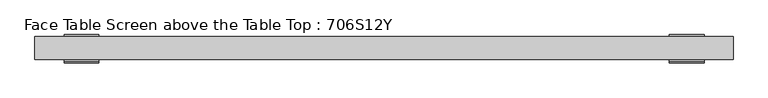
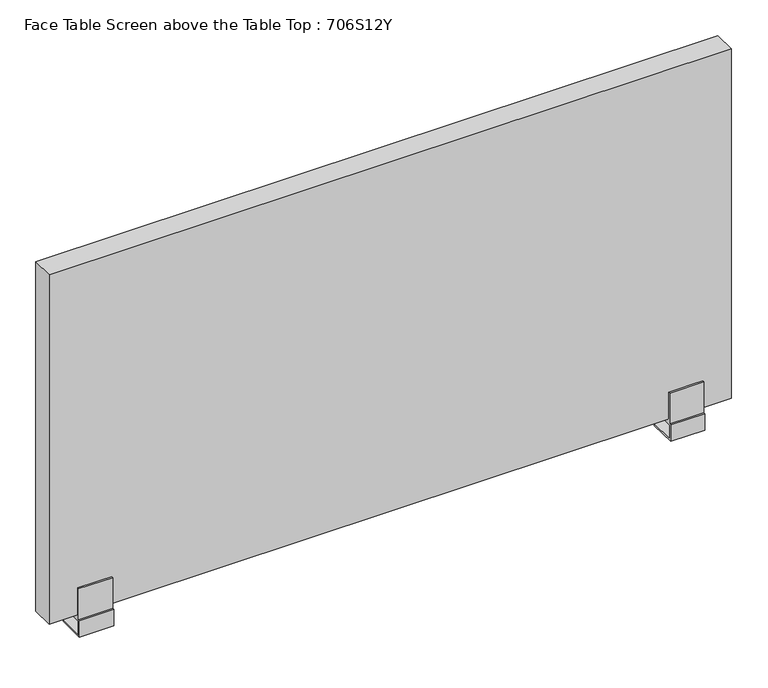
"""IFC4 building model written with IfcOpenShell, lengths in millimetres: furniture geometry, Face Table Screen above the Table Top : 706S12Y."""

from ifc_helpers import new_model, si_unit, frame, origin, place, context, project, spatial, polyline, circle_curve, outline, extrude, source, transform, mapped, element, save
from ifc_brep_helpers import plane_surface, cylinder_surface, advanced_brep


def face_table_screen_above_the_table_top_706s12y_19ade67d(model_context):
    return source(origin(), model_context, "Body", "SolidModel", [
        advanced_brep(
        [(-525.0, 0.0, -39.4406633), (-515.0, 0.0, -39.4406633), (-515.0, 0.0, -28.0), (-525.0, 0.0, -28.0), (-550.0, 23.0, -25.0), (-550.0, -23.0, -25.0), (-490.0, -23.0, -25.0), (-490.0, 23.0, -25.0), (-550.0, -23.0, 0.0), (-550.0, 23.0, -28.0), (-550.0, -26.0, -28.0), (-550.0, -26.0, 3.0), (-550.0, -23.0, 3.0), (-550.0, -23.0, 60.0), (-550.0, -20.0, 60.0), (-550.0, -20.0, 10.0), (-550.0, 20.0, 10.0), (-550.0, 20.0, 60.0), (-550.0, 23.0, 60.0), (-550.0, 23.0, 0.0), (-490.0, -23.0, 0.0), (-490.0, 23.0, 0.0), (-490.0, 23.0, 60.0), (-490.0, 20.0, 60.0), (-490.0, 20.0, 10.0), (-490.0, -20.0, 10.0), (-490.0, -20.0, 60.0), (-490.0, -23.0, 60.0), (-490.0, -23.0, 3.0), (-490.0, -26.0, 3.0), (-490.0, -26.0, -28.0), (-490.0, 23.0, -28.0)],
        [
            (0, 1, circle_curve(frame((-520.0, 0.0, -39.4406633), z_axis=(0.0, 0.0, -1.0), x_axis=(1.0, 0.0, 0.0)), 5.0)),
            (1, 0, circle_curve(frame((-520.0, 0.0, -39.4406633), z_axis=(0.0, 0.0, -1.0), x_axis=(1.0, 0.0, 0.0)), 5.0)),
            (1, 2),
            (2, 3, circle_curve(frame((-520.0, 0.0, -28.0), z_axis=(0.0, 0.0, -1.0), x_axis=(1.0, 0.0, 0.0)), 5.0)),
            (3, 0),
            (3, 2, circle_curve(frame((-520.0, 0.0, -28.0), z_axis=(0.0, 0.0, -1.0), x_axis=(1.0, 0.0, 0.0)), 5.0)),
            (4, 5),
            (5, 6),
            (6, 7),
            (7, 4),
            (8, 5),
            (4, 9),
            (9, 10),
            (10, 11),
            (11, 12),
            (12, 13),
            (13, 14),
            (14, 15),
            (15, 16),
            (16, 17),
            (17, 18),
            (18, 19),
            (19, 8),
            (20, 21),
            (21, 22),
            (22, 23),
            (23, 24),
            (24, 25),
            (25, 26),
            (26, 27),
            (27, 28),
            (28, 29),
            (29, 30),
            (30, 31),
            (31, 7),
            (6, 20),
            (19, 21),
            (20, 8),
            (18, 22),
            (17, 23),
            (16, 24),
            (15, 25),
            (14, 26),
            (13, 27),
            (12, 28),
            (11, 29),
            (10, 30),
            (9, 31),
        ],
        [
            plane_surface(frame((-515.0, 0.0, -39.4406633), z_axis=(0.0, 0.0, -1.0), x_axis=(0.0, -1.0, 0.0))),
            cylinder_surface(frame((-520.0, 0.0, -39.4406633), z_axis=(0.0, 0.0, 1.0), x_axis=(1.0, 0.0, 0.0)), 5.0),
            plane_surface(frame((-515.0, 0.0, -25.0), z_axis=(0.0, 0.0, 1.0), x_axis=(0.0, 1.0, 0.0))),
            plane_surface(frame((-550.0, 23.0, 0.0), z_axis=(-1.0, 0.0, 0.0), x_axis=(0.0, -1.0, 0.0))),
            plane_surface(frame((-490.0, 23.0, 0.0), z_axis=(1.0, 0.0, 0.0), x_axis=(0.0, 1.0, 0.0))),
            plane_surface(frame((-490.0, -23.0, 0.0), z_axis=(0.0, 0.0, -1.0), x_axis=(-1.0, 0.0, 0.0))),
            plane_surface(frame((-490.0, 23.0, 0.0), z_axis=(0.0, 1.0, 0.0), x_axis=(-1.0, 0.0, 0.0))),
            plane_surface(frame((-490.0, 23.0, 60.0), z_axis=(0.0, 0.0, 1.0), x_axis=(-1.0, 0.0, 0.0))),
            plane_surface(frame((-490.0, 20.0, 60.0), z_axis=(0.0, -1.0, 0.0), x_axis=(-1.0, 0.0, 0.0))),
            plane_surface(frame((-490.0, 20.0, 10.0), z_axis=(0.0, 0.0, 1.0), x_axis=(-1.0, 0.0, 0.0))),
            plane_surface(frame((-490.0, -20.0, 10.0), z_axis=(0.0, 1.0, 0.0), x_axis=(-1.0, 0.0, 0.0))),
            plane_surface(frame((-490.0, -20.0, 60.0), z_axis=(0.0, 0.0, 1.0), x_axis=(-1.0, 0.0, 0.0))),
            plane_surface(frame((-490.0, -23.0, 60.0), z_axis=(0.0, -1.0, 0.0), x_axis=(-1.0, 0.0, 0.0))),
            plane_surface(frame((-490.0, -23.0, 3.0), z_axis=(0.0, 0.0, 1.0), x_axis=(-1.0, 0.0, 0.0))),
            plane_surface(frame((-490.0, -26.0, 3.0), z_axis=(0.0, -1.0, 0.0), x_axis=(-1.0, 0.0, 0.0))),
            plane_surface(frame((-490.0, -26.0, -28.0), z_axis=(0.0, 0.0, -1.0), x_axis=(-1.0, 0.0, 0.0))),
            plane_surface(frame((-490.0, 23.0, -28.0), z_axis=(0.0, 1.0, 0.0), x_axis=(-1.0, 0.0, 0.0))),
            plane_surface(frame((-490.0, -23.0, -25.0), z_axis=(0.0, 1.0, 0.0), x_axis=(-1.0, 0.0, 0.0))),
        ],
        [
            (0, [[1, 2]]),
            (1, [[-2, 3, 4, 5]]),
            (1, [[-1, -5, 6, -3]]),
            (2, [[7, 8, 9, 10]]),
            (3, [[11, -7, 12, 13, 14, 15, 16, 17, 18, 19, 20, 21, 22, 23]]),
            (4, [[24, 25, 26, 27, 28, 29, 30, 31, 32, 33, 34, 35, -9, 36]]),
            (5, [[-23, 37, -24, 38]]),
            (6, [[-22, 39, -25, -37]]),
            (7, [[-21, 40, -26, -39]]),
            (8, [[-20, 41, -27, -40]]),
            (9, [[-19, 42, -28, -41]]),
            (10, [[-18, 43, -29, -42]]),
            (11, [[-17, 44, -30, -43]]),
            (12, [[-16, 45, -31, -44]]),
            (13, [[-15, 46, -32, -45]]),
            (14, [[-14, 47, -33, -46]]),
            (15, [[-13, 48, -34, -47], [-4, -6]]),
            (16, [[-12, -10, -35, -48]]),
            (17, [[-11, -38, -36, -8]]),
        ],
    ),
        advanced_brep(
        [(515.0, 0.0, -39.4406633), (525.0, 0.0, -39.4406633), (525.0, 0.0, -28.0), (515.0, 0.0, -28.0), (490.0, 23.0, -25.0), (490.0, -23.0, -25.0), (550.0, -23.0, -25.0), (550.0, 23.0, -25.0), (490.0, -23.0, 0.0), (490.0, 23.0, -28.0), (490.0, -26.0, -28.0), (490.0, -26.0, 3.0), (490.0, -23.0, 3.0), (490.0, -23.0, 60.0), (490.0, -20.0, 60.0), (490.0, -20.0, 10.0), (490.0, 20.0, 10.0), (490.0, 20.0, 60.0), (490.0, 23.0, 60.0), (490.0, 23.0, 0.0), (550.0, -23.0, 0.0), (550.0, 23.0, 0.0), (550.0, 23.0, 60.0), (550.0, 20.0, 60.0), (550.0, 20.0, 10.0), (550.0, -20.0, 10.0), (550.0, -20.0, 60.0), (550.0, -23.0, 60.0), (550.0, -23.0, 3.0), (550.0, -26.0, 3.0), (550.0, -26.0, -28.0), (550.0, 23.0, -28.0)],
        [
            (0, 1, circle_curve(frame((520.0, 0.0, -39.4406633), z_axis=(0.0, 0.0, -1.0), x_axis=(1.0, 0.0, 0.0)), 5.0)),
            (1, 0, circle_curve(frame((520.0, 0.0, -39.4406633), z_axis=(0.0, 0.0, -1.0), x_axis=(1.0, 0.0, 0.0)), 5.0)),
            (1, 2),
            (2, 3, circle_curve(frame((520.0, 0.0, -28.0), z_axis=(0.0, 0.0, -1.0), x_axis=(1.0, 0.0, 0.0)), 5.0)),
            (3, 0),
            (3, 2, circle_curve(frame((520.0, 0.0, -28.0), z_axis=(0.0, 0.0, -1.0), x_axis=(1.0, 0.0, 0.0)), 5.0)),
            (4, 5),
            (5, 6),
            (6, 7),
            (7, 4),
            (8, 5),
            (4, 9),
            (9, 10),
            (10, 11),
            (11, 12),
            (12, 13),
            (13, 14),
            (14, 15),
            (15, 16),
            (16, 17),
            (17, 18),
            (18, 19),
            (19, 8),
            (20, 21),
            (21, 22),
            (22, 23),
            (23, 24),
            (24, 25),
            (25, 26),
            (26, 27),
            (27, 28),
            (28, 29),
            (29, 30),
            (30, 31),
            (31, 7),
            (6, 20),
            (19, 21),
            (20, 8),
            (18, 22),
            (17, 23),
            (16, 24),
            (15, 25),
            (14, 26),
            (13, 27),
            (12, 28),
            (11, 29),
            (10, 30),
            (9, 31),
        ],
        [
            plane_surface(frame((525.0, 0.0, -39.4406633), z_axis=(0.0, 0.0, -1.0), x_axis=(0.0, -1.0, 0.0))),
            cylinder_surface(frame((520.0, 0.0, -39.4406633), z_axis=(0.0, 0.0, 1.0), x_axis=(1.0, 0.0, 0.0)), 5.0),
            plane_surface(frame((525.0, 0.0, -25.0), z_axis=(0.0, 0.0, 1.0), x_axis=(0.0, 1.0, 0.0))),
            plane_surface(frame((490.0, 23.0, 0.0), z_axis=(-1.0, 0.0, 0.0), x_axis=(0.0, -1.0, 0.0))),
            plane_surface(frame((550.0, 23.0, 0.0), z_axis=(1.0, 0.0, 0.0), x_axis=(0.0, 1.0, 0.0))),
            plane_surface(frame((550.0, -23.0, 0.0), z_axis=(0.0, 0.0, -1.0), x_axis=(-1.0, 0.0, 0.0))),
            plane_surface(frame((550.0, 23.0, 0.0), z_axis=(0.0, 1.0, 0.0), x_axis=(-1.0, 0.0, 0.0))),
            plane_surface(frame((550.0, 23.0, 60.0), z_axis=(0.0, 0.0, 1.0), x_axis=(-1.0, 0.0, 0.0))),
            plane_surface(frame((550.0, 20.0, 60.0), z_axis=(0.0, -1.0, 0.0), x_axis=(-1.0, 0.0, 0.0))),
            plane_surface(frame((550.0, 20.0, 10.0), z_axis=(0.0, 0.0, 1.0), x_axis=(-1.0, 0.0, 0.0))),
            plane_surface(frame((550.0, -20.0, 10.0), z_axis=(0.0, 1.0, 0.0), x_axis=(-1.0, 0.0, 0.0))),
            plane_surface(frame((550.0, -20.0, 60.0), z_axis=(0.0, 0.0, 1.0), x_axis=(-1.0, 0.0, 0.0))),
            plane_surface(frame((550.0, -23.0, 60.0), z_axis=(0.0, -1.0, 0.0), x_axis=(-1.0, 0.0, 0.0))),
            plane_surface(frame((550.0, -23.0, 3.0), z_axis=(0.0, 0.0, 1.0), x_axis=(-1.0, 0.0, 0.0))),
            plane_surface(frame((550.0, -26.0, 3.0), z_axis=(0.0, -1.0, 0.0), x_axis=(-1.0, 0.0, 0.0))),
            plane_surface(frame((550.0, -26.0, -28.0), z_axis=(0.0, 0.0, -1.0), x_axis=(-1.0, 0.0, 0.0))),
            plane_surface(frame((550.0, 23.0, -28.0), z_axis=(0.0, 1.0, 0.0), x_axis=(-1.0, 0.0, 0.0))),
            plane_surface(frame((550.0, -23.0, -25.0), z_axis=(0.0, 1.0, 0.0), x_axis=(-1.0, 0.0, 0.0))),
        ],
        [
            (0, [[1, 2]]),
            (1, [[-2, 3, 4, 5]]),
            (1, [[-1, -5, 6, -3]]),
            (2, [[7, 8, 9, 10]]),
            (3, [[11, -7, 12, 13, 14, 15, 16, 17, 18, 19, 20, 21, 22, 23]]),
            (4, [[24, 25, 26, 27, 28, 29, 30, 31, 32, 33, 34, 35, -9, 36]]),
            (5, [[-23, 37, -24, 38]]),
            (6, [[-22, 39, -25, -37]]),
            (7, [[-21, 40, -26, -39]]),
            (8, [[-20, 41, -27, -40]]),
            (9, [[-19, 42, -28, -41]]),
            (10, [[-18, 43, -29, -42]]),
            (11, [[-17, 44, -30, -43]]),
            (12, [[-16, 45, -31, -44]]),
            (13, [[-15, 46, -32, -45]]),
            (14, [[-14, 47, -33, -46]]),
            (15, [[-13, 48, -34, -47], [-4, -6]]),
            (16, [[-12, -10, -35, -48]]),
            (17, [[-11, -38, -36, -8]]),
        ],
    ),
        extrude(outline(polyline([(600.0, -20.0), (-600.0, -20.0), (-600.0, 20.0), (600.0, 20.0), (600.0, -20.0)])), frame((0.0, 0.0, 10.0), z_axis=(0.0, 0.0, 1.0), x_axis=(1.0, 0.0, 0.0)), (0.0, 0.0, 1.0), 650.0),
    ])


if __name__ == "__main__":
    model = new_model("IFC4")
    model_context = context("Model", 3, world=origin())
    ifc_project = project(units=[si_unit("LENGTHUNIT", "METRE", prefix="MILLI")], contexts=[model_context])
    site = spatial("IfcSite", under=ifc_project)
    building = spatial("IfcBuilding", under=site)
    placement = place(None, origin())
    face_table_screen_above_the_table_top_706s12y_shape = face_table_screen_above_the_table_top_706s12y_19ade67d(model_context)
    element("IfcFurniture", 1, ObjectType="Face Table Screen above the Table Top : 706S12Y", at=placement, inside=building, context=model_context, shape_type="MappedRepresentation", body=[
        mapped(face_table_screen_above_the_table_top_706s12y_shape, transform((0.0, 0.0, 0.0), x_axis=(1.0, 0.0, 0.0), y_axis=(0.0, 1.0, 0.0), z_axis=(0.0, 0.0, 1.0))),
    ])
    save(model, "model.ifc")
